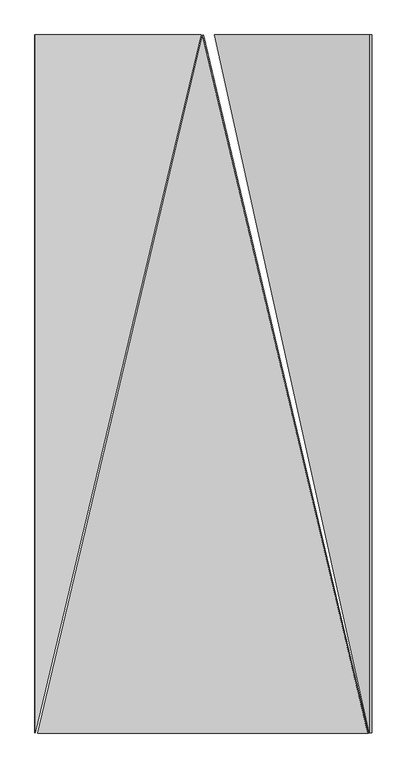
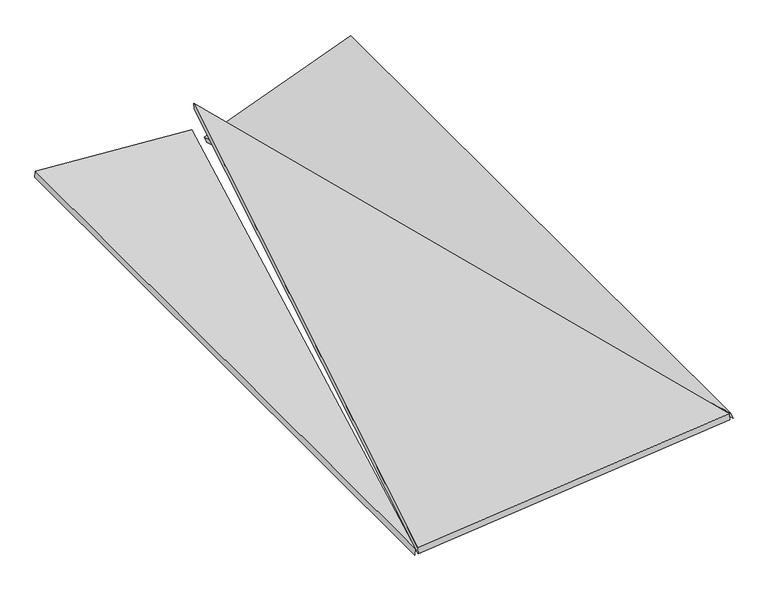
"""IFC4 building model written with IfcOpenShell, lengths in millimetres: proxy geometry, panel sufitowy 6 : panel sufitowy 6."""

from ifc_helpers import new_model, si_unit, frame, origin, place, context, project, spatial, polyline, outline, extrude, source, transform, mapped, element, save


def generic_models_0ea9d55a(model_context):
    return source(origin(), model_context, "Body", "SweptSolid", [
        extrude(outline(polyline([(-900.9098917, 0.0), (1006.1909889, 962.7191946), (1235.4098448, -1e-07), (-900.9098917, 0.0)])), frame((550.6791057, 1457.4151922, 1242.4313376), z_axis=(-0.10452846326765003, 0.0, 0.9945218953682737), x_axis=(-0.2303516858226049, -0.9728062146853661, -0.024210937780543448)), (0.0, 0.0, 1.0), 20.0),
        extrude(outline(polyline([(-127.5, 0.0), (-127.5, -2079.0), (-622.5, 0.0), (-127.5, 0.0)])), frame((1379.1922713, 2335.0, 1362.6927786), z_axis=(-0.3583679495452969, 0.0, 0.9335804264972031), x_axis=(0.9335804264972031, 0.0, 0.3583679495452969)), (0.0, 0.0, 1.0), 20.0),
        extrude(outline(polyline([(-127.5, 0.0), (-622.5, 0.0), (-127.5, 2079.0), (-127.5, 0.0)])), frame((128.5042362, 2335.0, 1220.3210675), z_axis=(0.06975647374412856, 0.0, 0.9975640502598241), x_axis=(-0.9975640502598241, 0.0, 0.06975647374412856)), (0.0, 0.0, 1.0), 20.0),
    ])


if __name__ == "__main__":
    model = new_model("IFC4")
    model_context = context("Model", 3, world=origin())
    ifc_project = project(units=[si_unit("LENGTHUNIT", "METRE", prefix="MILLI")], contexts=[model_context])
    site = spatial("IfcSite", under=ifc_project)
    building = spatial("IfcBuilding", under=site)
    placement = place(None, origin())
    generic_models_shape = generic_models_0ea9d55a(model_context)
    element("IfcBuildingElementProxy", 1, Name="panel sufitowy 6 : panel sufitowy 6", ObjectType="panel sufitowy 6 : panel sufitowy 6", at=placement, inside=building, context=model_context, shape_type="MappedRepresentation", body=[
        mapped(generic_models_shape, transform((0.0, 0.0, 0.0), x_axis=(1.0, 0.0, 0.0), y_axis=(0.0, 1.0, 0.0), z_axis=(0.0, 0.0, 1.0))),
    ])
    save(model, "model.ifc")
